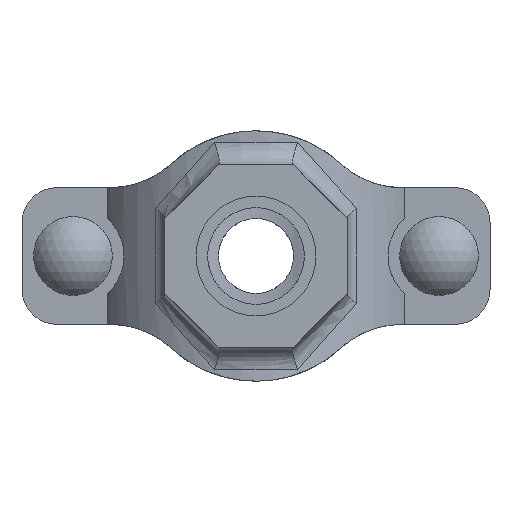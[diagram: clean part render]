
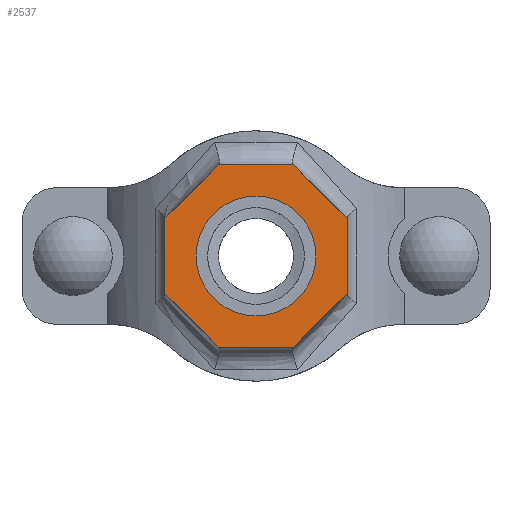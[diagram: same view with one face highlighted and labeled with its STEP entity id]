
A CAD part, front view. The second image highlights one B-rep face of the part: STEP entity #2537.
In plain terms, the highlighted planar face has unit normal (0, -1, 0) as drawn and (0, 1, 0) by its records, which use the part's own axes.
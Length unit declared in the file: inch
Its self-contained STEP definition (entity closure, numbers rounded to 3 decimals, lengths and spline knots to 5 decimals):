
#186=FACE_BOUND('',#457,.T.);
#305=FACE_OUTER_BOUND('',#456,.T.);
#456=EDGE_LOOP('',(#2128,#2129,#2130,#2131,#2132,#2133,#2134,#2135));
#457=EDGE_LOOP('',(#2136));
#594=LINE('',#4585,#780);
#597=LINE('',#4590,#783);
#599=LINE('',#4594,#785);
#601=LINE('',#4598,#787);
#637=LINE('',#4991,#823);
#639=LINE('',#4995,#825);
#641=LINE('',#4999,#827);
#643=LINE('',#5002,#829);
#780=VECTOR('',#3278,0.3937);
#783=VECTOR('',#3283,0.3937);
#785=VECTOR('',#3287,0.3937);
#787=VECTOR('',#3291,0.3937);
#823=VECTOR('',#3419,0.3937);
#825=VECTOR('',#3423,0.3937);
#827=VECTOR('',#3427,0.3937);
#829=VECTOR('',#3431,0.3937);
#919=CIRCLE('',#2802,0.6575);
#1097=VERTEX_POINT('',#4582);
#1098=VERTEX_POINT('',#4584);
#1099=VERTEX_POINT('',#4588);
#1100=VERTEX_POINT('',#4592);
#1101=VERTEX_POINT('',#4596);
#1136=VERTEX_POINT('',#4844);
#1158=VERTEX_POINT('',#4990);
#1159=VERTEX_POINT('',#4994);
#1160=VERTEX_POINT('',#4998);
#1408=EDGE_CURVE('',#1098,#1097,#594,.T.);
#1411=EDGE_CURVE('',#1097,#1099,#597,.T.);
#1413=EDGE_CURVE('',#1099,#1100,#599,.T.);
#1415=EDGE_CURVE('',#1100,#1101,#601,.T.);
#1461=EDGE_CURVE('',#1136,#1136,#919,.T.);
#1491=EDGE_CURVE('',#1158,#1098,#637,.T.);
#1493=EDGE_CURVE('',#1159,#1158,#639,.T.);
#1495=EDGE_CURVE('',#1160,#1159,#641,.T.);
#1497=EDGE_CURVE('',#1101,#1160,#643,.T.);
#2128=ORIENTED_EDGE('',*,*,#1497,.T.);
#2129=ORIENTED_EDGE('',*,*,#1495,.T.);
#2130=ORIENTED_EDGE('',*,*,#1493,.T.);
#2131=ORIENTED_EDGE('',*,*,#1491,.T.);
#2132=ORIENTED_EDGE('',*,*,#1408,.T.);
#2133=ORIENTED_EDGE('',*,*,#1411,.T.);
#2134=ORIENTED_EDGE('',*,*,#1413,.T.);
#2135=ORIENTED_EDGE('',*,*,#1415,.T.);
#2136=ORIENTED_EDGE('',*,*,#1461,.T.);
#2278=PLANE('',#2823);
#2537=ADVANCED_FACE('',(#305,#186),#2278,.T.);
#2802=AXIS2_PLACEMENT_3D('',#4845,#3369,#3370);
#2823=AXIS2_PLACEMENT_3D('',#5003,#3432,#3433);
#3278=DIRECTION('',(0.,0.,1.));
#3283=DIRECTION('',(0.707,0.,0.707));
#3287=DIRECTION('',(1.,0.,0.));
#3291=DIRECTION('',(0.707,0.,-0.707));
#3369=DIRECTION('center_axis',(0.,-1.,0.));
#3370=DIRECTION('ref_axis',(-1.,0.,0.));
#3419=DIRECTION('',(-0.707,0.,0.707));
#3423=DIRECTION('',(-1.,0.,0.));
#3427=DIRECTION('',(-0.707,0.,-0.707));
#3431=DIRECTION('',(0.,0.,-1.));
#3432=DIRECTION('center_axis',(0.,1.,0.));
#3433=DIRECTION('ref_axis',(0.,0.,1.));
#4582=CARTESIAN_POINT('',(-1.,2.74,0.41421));
#4584=CARTESIAN_POINT('',(-1.,2.74,-0.41421));
#4585=CARTESIAN_POINT('',(-1.,2.74,0.41421));
#4588=CARTESIAN_POINT('',(-0.41421,2.74,1.));
#4590=CARTESIAN_POINT('',(-0.41421,2.74,1.));
#4592=CARTESIAN_POINT('',(0.41421,2.74,1.));
#4594=CARTESIAN_POINT('',(0.41421,2.74,1.));
#4596=CARTESIAN_POINT('',(1.,2.74,0.41421));
#4598=CARTESIAN_POINT('',(1.,2.74,0.41421));
#4844=CARTESIAN_POINT('',(0.6575,2.74,0.));
#4845=CARTESIAN_POINT('Origin',(0.,2.74,0.));
#4990=CARTESIAN_POINT('',(-0.41421,2.74,-1.));
#4991=CARTESIAN_POINT('',(-1.,2.74,-0.41421));
#4994=CARTESIAN_POINT('',(0.41421,2.74,-1.));
#4995=CARTESIAN_POINT('',(-0.41421,2.74,-1.));
#4998=CARTESIAN_POINT('',(1.,2.74,-0.41421));
#4999=CARTESIAN_POINT('',(0.41421,2.74,-1.));
#5002=CARTESIAN_POINT('',(1.,2.74,-0.41421));
#5003=CARTESIAN_POINT('Origin',(0.,2.74,0.));
